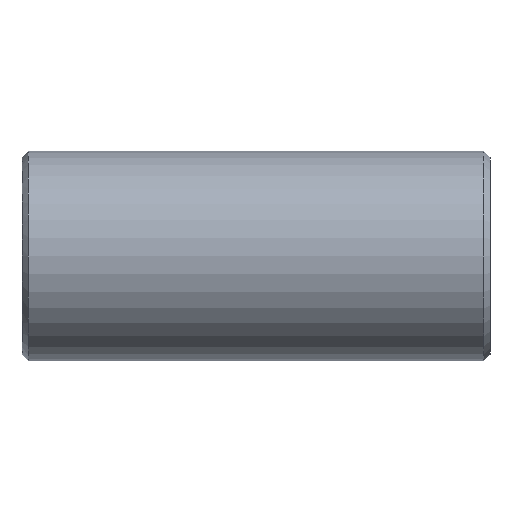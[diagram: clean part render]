
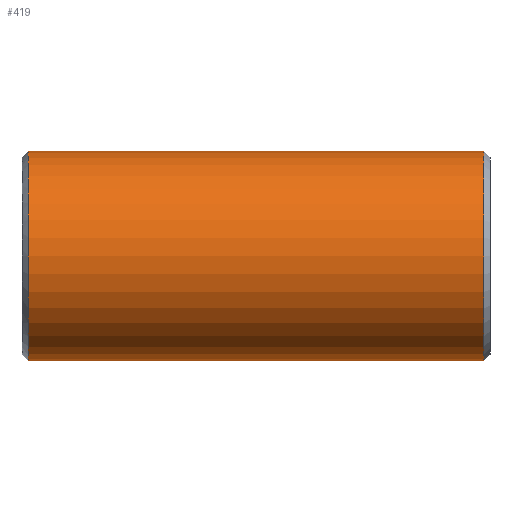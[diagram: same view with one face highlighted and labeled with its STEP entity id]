
A CAD part, front view. The second image highlights one B-rep face of the part: STEP entity #419.
In plain terms, the highlighted cylindrical face has radius 17 mm (diameter 34 mm), a partial arc.
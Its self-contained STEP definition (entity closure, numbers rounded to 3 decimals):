
#231=CARTESIAN_POINT('Vertex',(1.,0.,-17.)) ;
#238=CARTESIAN_POINT('Vertex',(1.,0.,17.)) ;
#267=CARTESIAN_POINT('Axis2P3D Location',(1.,0.,0.)) ;
#271=CARTESIAN_POINT('Vertex',(1.,-17.,0.)) ;
#274=CARTESIAN_POINT('Axis2P3D Location',(1.,0.,0.)) ;
#359=CARTESIAN_POINT('Line Origine',(76.,0.,17.)) ;
#363=CARTESIAN_POINT('Vertex',(75.,0.,17.)) ;
#377=CARTESIAN_POINT('Vertex',(75.,0.,-17.)) ;
#380=CARTESIAN_POINT('Line Origine',(76.,0.,-17.)) ;
#394=CARTESIAN_POINT('Axis2P3D Location',(76.,0.,0.)) ;
#399=CARTESIAN_POINT('Axis2P3D Location',(75.,0.,0.)) ;
#403=CARTESIAN_POINT('Vertex',(75.,-17.,0.)) ;
#406=CARTESIAN_POINT('Axis2P3D Location',(75.,0.,0.)) ;
#268=DIRECTION('Axis2P3D Direction',(1.,0.,-0.)) ;
#275=DIRECTION('Axis2P3D Direction',(1.,0.,-0.)) ;
#360=DIRECTION('Vector Direction',(-1.,0.,0.)) ;
#381=DIRECTION('Vector Direction',(-1.,0.,0.)) ;
#395=DIRECTION('Axis2P3D Direction',(-1.,-0.,-0.)) ;
#396=DIRECTION('Axis2P3D XDirection',(0.,0.,-1.)) ;
#400=DIRECTION('Axis2P3D Direction',(-1.,-0.,-0.)) ;
#407=DIRECTION('Axis2P3D Direction',(-1.,-0.,-0.)) ;
#269=AXIS2_PLACEMENT_3D('Circle Axis2P3D',#267,#268,$) ;
#276=AXIS2_PLACEMENT_3D('Circle Axis2P3D',#274,#275,$) ;
#397=AXIS2_PLACEMENT_3D('Cylinder Axis2P3D',#394,#395,#396) ;
#401=AXIS2_PLACEMENT_3D('Circle Axis2P3D',#399,#400,$) ;
#408=AXIS2_PLACEMENT_3D('Circle Axis2P3D',#406,#407,$) ;
#412=ORIENTED_EDGE('',*,*,#384,.T.) ;
#413=ORIENTED_EDGE('',*,*,#405,.F.) ;
#414=ORIENTED_EDGE('',*,*,#410,.F.) ;
#415=ORIENTED_EDGE('',*,*,#365,.T.) ;
#416=ORIENTED_EDGE('',*,*,#278,.T.) ;
#417=ORIENTED_EDGE('',*,*,#273,.T.) ;
#361=VECTOR('Line Direction',#360,1.) ;
#382=VECTOR('Line Direction',#381,1.) ;
#419=ADVANCED_FACE('352-25X76',(#418),#398,.T.) ;
#270=CIRCLE('generated circle',#269,17.) ;
#277=CIRCLE('generated circle',#276,17.) ;
#402=CIRCLE('generated circle',#401,17.) ;
#409=CIRCLE('generated circle',#408,17.) ;
#398=CYLINDRICAL_SURFACE('generated cylinder',#397,17.) ;
#273=EDGE_CURVE('',#272,#232,#270,.T.) ;
#278=EDGE_CURVE('',#239,#272,#277,.T.) ;
#365=EDGE_CURVE('',#364,#239,#362,.T.) ;
#384=EDGE_CURVE('',#232,#378,#383,.F.) ;
#405=EDGE_CURVE('',#404,#378,#402,.F.) ;
#410=EDGE_CURVE('',#364,#404,#409,.F.) ;
#411=EDGE_LOOP('',(#412,#413,#414,#415,#416,#417)) ;
#418=FACE_OUTER_BOUND('',#411,.T.) ;
#362=LINE('Line',#359,#361) ;
#383=LINE('Line',#380,#382) ;
#232=VERTEX_POINT('',#231) ;
#239=VERTEX_POINT('',#238) ;
#272=VERTEX_POINT('',#271) ;
#364=VERTEX_POINT('',#363) ;
#378=VERTEX_POINT('',#377) ;
#404=VERTEX_POINT('',#403) ;
